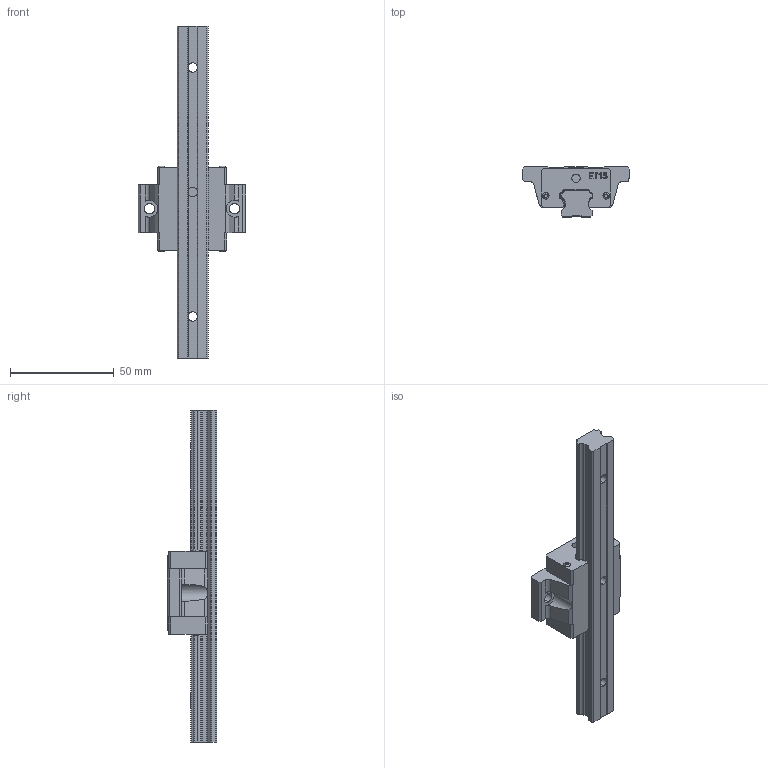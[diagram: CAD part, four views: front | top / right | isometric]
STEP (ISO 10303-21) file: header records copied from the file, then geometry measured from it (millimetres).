
FILE_DESCRIPTION (( 'STEP AP214' ), '1' );
FILE_NAME ('7.1031 Lineaarikelkka ETW15SA.STEP', '2026-03-12T11:08:43', ( '' ), ( '' ), 'SwSTEP 2.0', 'SolidWorks 2025', '' );
FILE_SCHEMA (( 'AUTOMOTIVE_DESIGN' ));
Length unit declared in the file: millimetre
Products named in the file (3): ET15_RAIL; ETW15SA_BLOCK; 7.1031 Lineaarikelkka ETW15SA
Assembly tree (2 placements, depth 2):
  7.1031 Lineaarikelkka ETW15SA
    ETW15SA_BLOCK
    ET15_RAIL
Bounding box: 52 x 24 x 160 mm (x, y, z)
Volume: 50098.3 mm3; surface area: 17550.2 mm2
Topology: 2 solids, 2 shells, 316 faces, 909 edges, 616 vertices
Faces by surface type: plane 183, cylinder 102, bspline 23, torus 8
Entity records: 17241 total; most frequent: CARTESIAN_POINT 5469, ORIENTED_EDGE 1818, DIRECTION 1556, EDGE_CURVE 909, VERTEX_POINT 616, LINE 588, VECTOR 588, AXIS2_PLACEMENT_3D 484
